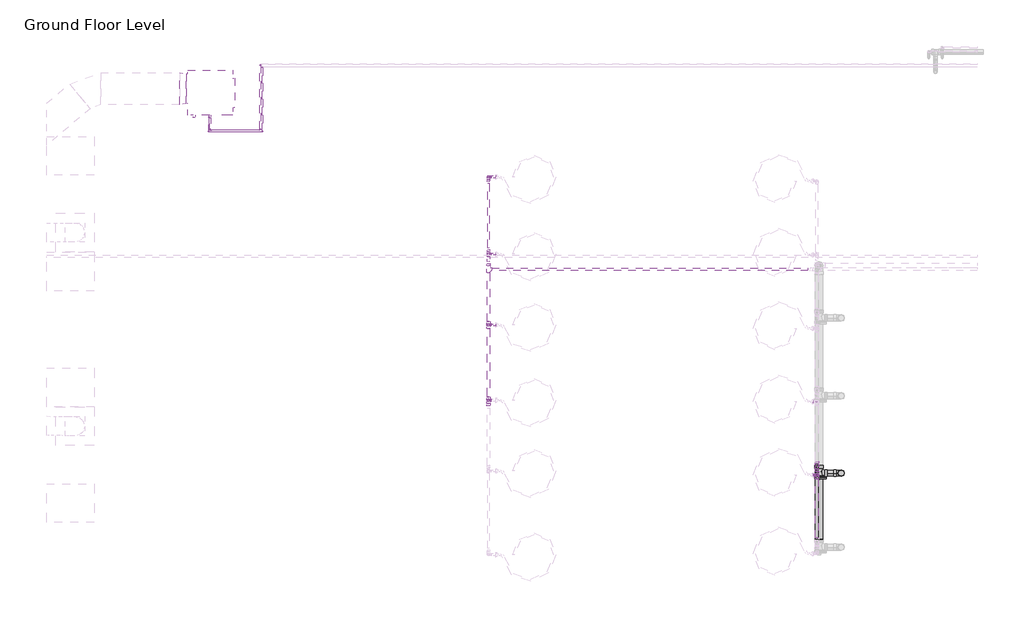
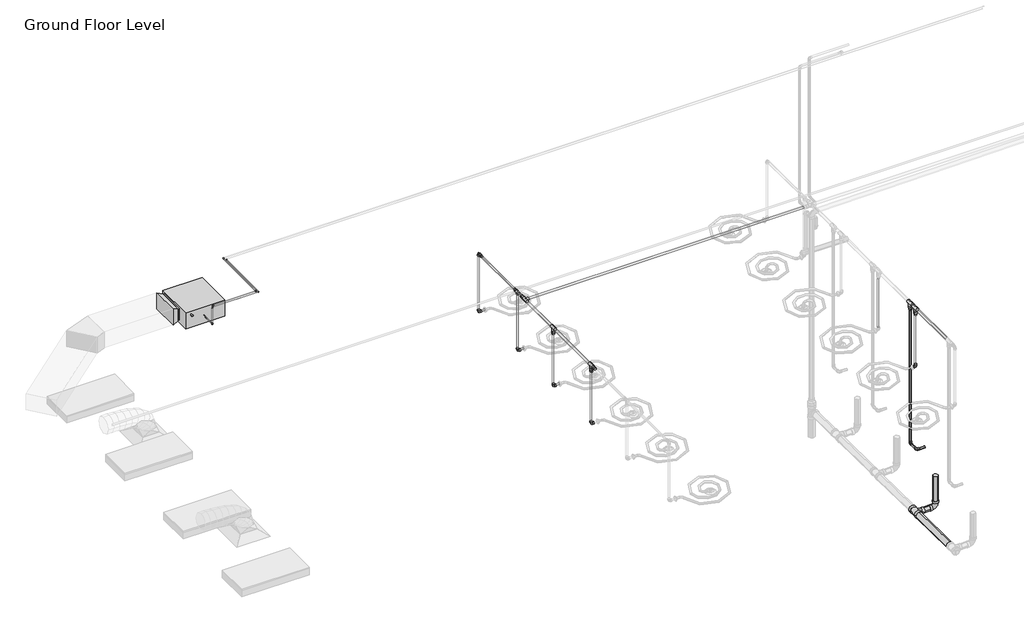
# One storey, part 4 of 74: 32 pipe fittings, 32 pipe segments, 1 duct fitting, 1 proxy.
"""IFC4 building model written with IfcOpenShell, lengths in millimetres."""

from ifc_helpers import new_model, si_unit, point, frame, frame_2d, origin, place, context, project, spatial, circle_curve, trimmed, segment, composite_curve, outline, extrude, transform, mapped, element, save
from components import fcu_daikin_iu_bad131e0, m_rectangular_transition_angle_45_degree_2b595dfe, m_bend_pvc_sch_40_dwv_standard_a4b99d37, m_elbow_generic_standard_a088f956, m_elbow_generic_standard_2a704253, m_tee_reducing_sanitary_pvc_sch_40_dwv_standard_b49161a9, standard_517a5a8d, standard_72b35c3b, standard_08ff6011, standard_d0d0b892, standard_bbae78af, standard_e954f56a, standard_e5aa6446, standard_8b9c3306, standard_77f9104c, standard_a38854e5

model = new_model("IFC4")

# Units and contexts
model_context = context("Model", 3, world=origin())
ifc_project = project(units=[si_unit("LENGTHUNIT", "METRE", prefix="MILLI")], contexts=[model_context])

# Site, building, storey
site = spatial("IfcSite", under=ifc_project)
building = spatial("IfcBuilding", under=site)
storey = spatial("IfcBuildingStorey", under=building, Name="Ground Floor Level", Elevation=900.0)

# Proxy
placement = place(None, origin())
fcu_daikin_iu_shape = fcu_daikin_iu_bad131e0(model_context)
element("IfcBuildingElementProxy", 1, Name="FCU-DAIKIN IU : 4.5kW, 230V/50Hz/1Ph", ObjectType="FCU-DAIKIN IU : 4.5kW, 230V/50Hz/1Ph", at=placement, inside=storey, context=model_context, shape_type="MappedRepresentation", body=[
    mapped(fcu_daikin_iu_shape, transform((-15233.3472784, -33493.9628495, 3934.0891289), x_axis=(0.0, -1.0, 0.0), y_axis=(1.0, 0.0, 0.0), z_axis=(0.0, 0.0, 1.0))),
])

# Duct fitting
m_rectangular_transition_angle_45_degree_shape = m_rectangular_transition_angle_45_degree_2b595dfe(model_context)
element("IfcDuctFitting", 2, ObjectType="M_Rectangular Transition - Angle : 45 Degree", at=placement, inside=storey, context=model_context, shape_type="MappedRepresentation", body=[
    mapped(m_rectangular_transition_angle_45_degree_shape, transform((-15608.7472784, -33430.4628495, 4100.0016289), x_axis=(-1.0, 0.0, 0.0), y_axis=(0.0, -1.0, 0.0), z_axis=(0.0, 0.0, 1.0))),
])

# Pipe fittings
m_bend_pvc_sch_40_dwv_standard_shape = m_bend_pvc_sch_40_dwv_standard_a4b99d37(model_context)
element("IfcPipeFitting", 3, ObjectType="M_Bend - PVC - Sch 40 - DWV : Standard", at=placement, inside=storey, context=model_context, shape_type="MappedRepresentation", body=[
    mapped(m_bend_pvc_sch_40_dwv_standard_shape, transform((-5437.0260633, -39402.8025066, 415.2349225), x_axis=(0.0, 0.0, -1.0), y_axis=(-1.0, 0.0, 0.0), z_axis=(0.0, 1.0, 0.0))),
])
m_elbow_generic_standard_shape = m_elbow_generic_standard_a088f956(model_context)
element("IfcPipeFitting", 4, ObjectType="M_Elbow - Generic : Standard", at=placement, inside=storey, context=model_context, shape_type="MappedRepresentation", body=[
    mapped(m_elbow_generic_standard_shape, transform((-14457.1048173, -33050.466218, 4390.0), x_axis=(-1.0, 0.0, 0.0), y_axis=(0.0, -1.0, 0.0), z_axis=(0.0, 0.0, 1.0))),
])
element("IfcPipeFitting", 5, ObjectType="M_Elbow - Generic : Standard", at=placement, inside=storey, context=model_context, shape_type="MappedRepresentation", body=[
    mapped(m_elbow_generic_standard_shape, transform((-14457.1048173, -34070.466218, 4390.0), x_axis=(1.0, 0.0, 0.0), y_axis=(0.0, 1.0, 0.0), z_axis=(0.0, 0.0, 1.0))),
])
element("IfcPipeFitting", 6, ObjectType="M_Elbow - Generic : Standard", at=placement, inside=storey, context=model_context, shape_type="MappedRepresentation", body=[
    mapped(m_elbow_generic_standard_shape, transform((-15233.3472784, -34070.466218, 4390.0), x_axis=(-1.0, 0.0, 0.0), y_axis=(0.0, 0.0, -1.0), z_axis=(0.0, -1.0, 0.0))),
])
element("IfcPipeFitting", 7, ObjectType="M_Elbow - Generic : Standard", at=placement, inside=storey, context=model_context, shape_type="MappedRepresentation", body=[
    mapped(m_elbow_generic_standard_shape, transform((-15233.3472784, -34070.466218, 4034.0891289), x_axis=(0.0, 0.0, -1.0), y_axis=(0.0, 1.0, 0.0), z_axis=(1.0, 0.0, 0.0))),
])
m_elbow_generic_standard_2_shape = m_elbow_generic_standard_2a704253(model_context)
element("IfcPipeFitting", 8, ObjectType="M_Elbow - Generic : Standard", at=placement, inside=storey, context=model_context, shape_type="MappedRepresentation", body=[
    mapped(m_elbow_generic_standard_2_shape, transform((-14426.0095887, -33088.5402522, 4377.5), x_axis=(-1.0, 0.0, 0.0), y_axis=(0.0, -1.0, 0.0), z_axis=(0.0, 0.0, 1.0))),
])
element("IfcPipeFitting", 9, ObjectType="M_Elbow - Generic : Standard", at=placement, inside=storey, context=model_context, shape_type="MappedRepresentation", body=[
    mapped(m_elbow_generic_standard_2_shape, transform((-14426.0095887, -34098.5402522, 4377.5), x_axis=(1.0, 0.0, 0.0), y_axis=(0.0, 1.0, 0.0), z_axis=(0.0, 0.0, 1.0))),
])
element("IfcPipeFitting", 10, ObjectType="M_Elbow - Generic : Standard", at=placement, inside=storey, context=model_context, shape_type="MappedRepresentation", body=[
    mapped(m_elbow_generic_standard_2_shape, transform((-15258.3472784, -34098.5402522, 4377.5), x_axis=(-1.0, 0.0, 0.0), y_axis=(0.0, 0.0, -1.0), z_axis=(0.0, -1.0, 0.0))),
])
element("IfcPipeFitting", 11, ObjectType="M_Elbow - Generic : Standard", at=placement, inside=storey, context=model_context, shape_type="MappedRepresentation", body=[
    mapped(m_elbow_generic_standard_2_shape, transform((-15258.3472784, -34098.5402522, 4084.8891289), x_axis=(0.0, 0.0, -1.0), y_axis=(0.0, 1.0, 0.0), z_axis=(1.0, 0.0, 0.0))),
])
m_tee_reducing_sanitary_pvc_sch_40_dwv_standard_shape = m_tee_reducing_sanitary_pvc_sch_40_dwv_standard_b49161a9(model_context)
element("IfcPipeFitting", 12, ObjectType="M_Tee Reducing Sanitary - PVC - Sch 40 - DWV : Standard", at=placement, inside=storey, context=model_context, shape_type="MappedRepresentation", body=[
    mapped(m_tee_reducing_sanitary_pvc_sch_40_dwv_standard_shape, transform((-5783.0674798, -39402.8010068, 415.3849075), x_axis=(0.0, -0.9999500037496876, 0.009999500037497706), y_axis=(-1.0000000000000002, 0.0, 0.0), z_axis=(0.0, -0.009999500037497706, -0.9999500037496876))),
])
standard_shape = standard_517a5a8d(model_context)
element("IfcPipeFitting", 13, ObjectType="M_Elbow - CPVC - Sch 40 : Standard", at=placement, inside=storey, context=model_context, shape_type="MappedRepresentation", body=[
    mapped(standard_shape, transform((-5815.4900472, -39432.7929166, 3200.0), x_axis=(1.0, 0.0, 0.0), y_axis=(0.0, 0.0, 1.0), z_axis=(0.0, -1.0, 0.0))),
])
element("IfcPipeFitting", 14, ObjectType="M_Elbow - CPVC - Sch 40 : Standard", at=placement, inside=storey, context=model_context, shape_type="MappedRepresentation", body=[
    mapped(standard_shape, transform((-5815.4900472, -39276.2412728, 1655.0), x_axis=(0.0, 1.0, 0.0), y_axis=(0.0, 0.0, 1.0), z_axis=(1.0, 0.0, 0.0))),
])
element("IfcPipeFitting", 15, ObjectType="M_Elbow - CPVC - Sch 40 : Standard", at=placement, inside=storey, context=model_context, shape_type="MappedRepresentation", body=[
    mapped(standard_shape, transform((-10915.1539972, -38269.7846466, 3200.0), x_axis=(0.0, 0.0, -1.0), y_axis=(1.0, 0.0, 0.0), z_axis=(0.0, -1.0, 0.0))),
])
element("IfcPipeFitting", 16, ObjectType="M_Elbow - CPVC - Sch 40 : Standard", at=placement, inside=storey, context=model_context, shape_type="MappedRepresentation", body=[
    mapped(standard_shape, transform((-10915.1539972, -37099.6019973, 3200.0), x_axis=(-1.0, 0.0, 0.0), y_axis=(0.0, 0.0, 1.0), z_axis=(0.0, 1.0, 0.0))),
])
element("IfcPipeFitting", 17, ObjectType="M_Elbow - CPVC - Sch 40 : Standard", at=placement, inside=storey, context=model_context, shape_type="MappedRepresentation", body=[
    mapped(standard_shape, transform((-10915.1539972, -35999.6019973, 3200.0), x_axis=(-1.0, 0.0, 0.0), y_axis=(0.0, 0.0, 1.0), z_axis=(0.0, 1.0, 0.0))),
])
element("IfcPipeFitting", 18, ObjectType="M_Elbow - CPVC - Sch 40 : Standard", at=placement, inside=storey, context=model_context, shape_type="MappedRepresentation", body=[
    mapped(standard_shape, transform((-10915.1539972, -34799.6019973, 3200.0), x_axis=(-1.0, 0.0, 0.0), y_axis=(0.0, 0.0, 1.0), z_axis=(0.0, 1.0, 0.0))),
])
element("IfcPipeFitting", 19, ObjectType="M_Elbow - CPVC - Sch 40 : Standard", at=placement, inside=storey, context=model_context, shape_type="MappedRepresentation", body=[
    mapped(standard_shape, transform((-10915.1539972, -34799.6019973, 4300.0), x_axis=(0.0, 1.0, 0.0), y_axis=(0.0, 0.0, -1.0), z_axis=(-1.0, 0.0, 0.0))),
])
element("IfcPipeFitting", 20, ObjectType="M_Elbow - CPVC - Sch 40 : Standard", at=placement, inside=storey, context=model_context, shape_type="MappedRepresentation", body=[
    mapped(standard_shape, transform((-5815.4900472, -39476.2412728, 1655.0), x_axis=(0.0, -1.0, 0.0), y_axis=(1.0, 0.0, 0.0), z_axis=(0.0, 0.0, 1.0))),
])
standard_2_shape = standard_72b35c3b(model_context)
element("IfcPipeFitting", 21, ObjectType="M_Tee - CPVC - Sch 40 : Standard", at=placement, inside=storey, context=model_context, shape_type="MappedRepresentation", body=[
    mapped(standard_2_shape, transform((-10915.1539972, -35999.6019973, 4300.0), x_axis=(0.0, -1.0, 0.0), y_axis=(0.0, 0.0, 1.0), z_axis=(-1.0, 0.0, 0.0))),
])
standard_3_shape = standard_08ff6011(model_context)
element("IfcPipeFitting", 22, ObjectType="M_Tee - CPVC - Sch 40 : Standard", at=placement, inside=storey, context=model_context, shape_type="MappedRepresentation", body=[
    mapped(standard_3_shape, transform((-10915.1539972, -36234.6855451, 4300.0), x_axis=(0.0, -1.0, 0.0), y_axis=(-1.0, 0.0, 0.0), z_axis=(0.0, 0.0, -1.0))),
])
element("IfcPipeFitting", 23, ObjectType="M_Tee - CPVC - Sch 40 : Standard", at=placement, inside=storey, context=model_context, shape_type="MappedRepresentation", body=[
    mapped(standard_3_shape, transform((-10915.1539972, -38269.7846466, 4300.0), x_axis=(0.0, -1.0, 0.0), y_axis=(0.0, 0.0, 1.0), z_axis=(-1.0, 0.0, 0.0))),
])
element("IfcPipeFitting", 24, ObjectType="M_Tee - CPVC - Sch 40 : Standard", at=placement, inside=storey, context=model_context, shape_type="MappedRepresentation", body=[
    mapped(standard_3_shape, transform((-10915.1539972, -37099.6019973, 4300.0), x_axis=(0.0, -1.0, 0.0), y_axis=(0.0, 0.0, 1.0), z_axis=(-1.0, 0.0, 0.0))),
])
standard_4_shape = standard_d0d0b892(model_context)
element("IfcPipeFitting", 25, ObjectType="M_Coupling Reducing - CPVC - Sch 40 : Standard", at=placement, inside=storey, context=model_context, shape_type="MappedRepresentation", body=[
    mapped(standard_4_shape, transform((-10915.1539972, -38269.7846466, 4246.025), x_axis=(0.0, 0.0, -1.0), y_axis=(0.0, 1.0, 0.0), z_axis=(1.0, 0.0, 0.0))),
])
element("IfcPipeFitting", 26, ObjectType="M_Coupling Reducing - CPVC - Sch 40 : Standard", at=placement, inside=storey, context=model_context, shape_type="MappedRepresentation", body=[
    mapped(standard_4_shape, transform((-10915.1539972, -37099.6019973, 4246.025), x_axis=(0.0, 0.0, -1.0), y_axis=(-1.0, 0.0, 0.0), z_axis=(0.0, 1.0, 0.0))),
])
element("IfcPipeFitting", 27, ObjectType="M_Coupling Reducing - CPVC - Sch 40 : Standard", at=placement, inside=storey, context=model_context, shape_type="MappedRepresentation", body=[
    mapped(standard_4_shape, transform((-10915.1539972, -36180.7105451, 4300.0), x_axis=(0.0, 1.0, 0.0), y_axis=(-1.0, 0.0, 0.0), z_axis=(0.0, 0.0, 1.0))),
])
standard_5_shape = standard_bbae78af(model_context)
element("IfcPipeFitting", 28, ObjectType="M_Tee - CPVC - Sch 40 : Standard", at=placement, inside=storey, context=model_context, shape_type="MappedRepresentation", body=[
    mapped(standard_5_shape, transform((-5815.4900472, -39432.7929166, 4300.0), x_axis=(0.0, 1.0, 0.0), y_axis=(0.0, 0.0, 1.0), z_axis=(1.0, 0.0, 0.0))),
])
element("IfcPipeFitting", 29, ObjectType="M_Tee - CPVC - Sch 40 : Standard", at=placement, inside=storey, context=model_context, shape_type="MappedRepresentation", body=[
    mapped(standard_5_shape, transform((-5815.4900472, -39276.2412728, 4300.0), x_axis=(0.0, 1.0, 0.0), y_axis=(0.0, 0.0, 1.0), z_axis=(1.0, 0.0, 0.0))),
])
standard_6_shape = standard_e954f56a(model_context)
element("IfcPipeFitting", 30, ObjectType="M_Coupling Reducing - CPVC - Sch 40 : Standard", at=placement, inside=storey, context=model_context, shape_type="MappedRepresentation", body=[
    mapped(standard_6_shape, transform((-10915.1539972, -35959.9017973, 4300.0), x_axis=(0.0, 1.0, 0.0), y_axis=(-1.0, 0.0, 0.0), z_axis=(0.0, 0.0, 1.0))),
])
standard_7_shape = standard_e5aa6446(model_context)
element("IfcPipeFitting", 31, ObjectType="M_Coupling Reducing - CPVC - Sch 40 : Standard", at=placement, inside=storey, context=model_context, shape_type="MappedRepresentation", body=[
    mapped(standard_7_shape, transform((-10915.1539972, -34842.8645473, 4300.0), x_axis=(0.0, -1.0, 0.0), y_axis=(1.0, 0.0, 0.0), z_axis=(0.0, 0.0, 1.0))),
])
standard_8_shape = standard_8b9c3306(model_context)
element("IfcPipeFitting", 32, ObjectType="M_Coupling Reducing - CPVC - Sch 40 : Standard", at=placement, inside=storey, context=model_context, shape_type="MappedRepresentation", body=[
    mapped(standard_8_shape, transform((-5815.4900472, -39432.7929166, 4241.2498), x_axis=(0.0, 0.0, -1.0), y_axis=(-1.0, 0.0, 0.0), z_axis=(0.0, 1.0, 0.0))),
])
standard_9_shape = standard_77f9104c(model_context)
element("IfcPipeFitting", 33, ObjectType="M_Coupling Reducing - CPVC - Sch 40 : Standard", at=placement, inside=storey, context=model_context, shape_type="MappedRepresentation", body=[
    mapped(standard_9_shape, transform((-5815.4900472, -39276.2412728, 4241.2498), x_axis=(0.0, 0.0, -1.0), y_axis=(0.0, -1.0, 0.0), z_axis=(-1.0, 0.0, 0.0))),
])
standard_10_shape = standard_a38854e5(model_context)
element("IfcPipeFitting", 34, ObjectType="M_Coupling Reducing - CPVC - Sch 40 : Standard", at=placement, inside=storey, context=model_context, shape_type="MappedRepresentation", body=[
    mapped(standard_10_shape, transform((-10915.1539972, -38323.7596466, 4300.0), x_axis=(0.0, -1.0, 0.0), y_axis=(1.0, 0.0, 0.0), z_axis=(0.0, 0.0, 1.0))),
])

# Pipe segments
element("IfcPipeSegment", 35, ObjectType="CPVC", at=placement, inside=storey, context=model_context, shape_type="SweptSolid", body=[
    extrude(outline(composite_curve([segment(trimmed(circle_curve(frame_2d((-36234.6855451, 4300.0)), 21.082), [point((-36213.6035451, 4300.0))], [point((-36234.6855451, 4278.918))], False, "CARTESIAN"), True, "CONTINUOUS"), segment(trimmed(circle_curve(frame_2d((-36234.6855451, 4300.0)), 21.082), [point((-36234.6855451, 4278.918))], [point((-36255.7675451, 4300.0))], False, "CARTESIAN"), True, "CONTINUOUS"), segment(trimmed(circle_curve(frame_2d((-36234.6855451, 4300.0)), 21.082), [point((-36255.7675451, 4300.0))], [point((-36234.6855451, 4321.082))], False, "CARTESIAN"), True, "CONTINUOUS"), segment(trimmed(circle_curve(frame_2d((-36234.6855451, 4300.0)), 21.082), [point((-36234.6855451, 4321.082))], [point((-36213.6035451, 4300.0))], False, "CARTESIAN"), True, "CONTINUOUS")], self_intersect=False)), frame((-10861.1789972, 0.0, 0.0), z_axis=(1.0, 0.0, 0.0), x_axis=(0.0, 1.0, 0.0)), (0.0, 0.0, 1.0), 4906.025),
])
element("IfcPipeSegment", 36, ObjectType="CPVC", at=placement, inside=storey, context=model_context, shape_type="SweptSolid", body=[
    extrude(outline(composite_curve([segment(trimmed(circle_curve(frame_2d((-38292.7833266, 3200.0)), 16.7005), [point((-38309.4838266, 3200.0))], [point((-38292.7833266, 3216.7005))], False, "CARTESIAN"), True, "CONTINUOUS"), segment(trimmed(circle_curve(frame_2d((-38292.7833266, 3200.0)), 16.7005), [point((-38292.7833266, 3216.7005))], [point((-38276.0828266, 3200.0))], False, "CARTESIAN"), True, "CONTINUOUS"), segment(trimmed(circle_curve(frame_2d((-38292.7833266, 3200.0)), 16.7005), [point((-38276.0828266, 3200.0))], [point((-38292.7833266, 3183.2995))], False, "CARTESIAN"), True, "CONTINUOUS"), segment(trimmed(circle_curve(frame_2d((-38292.7833266, 3200.0)), 16.7005), [point((-38292.7833266, 3183.2995))], [point((-38309.4838266, 3200.0))], False, "CARTESIAN"), True, "CONTINUOUS")], self_intersect=False)), frame((-5868.9493142, 0.0, 0.0), z_axis=(1.0, 0.0, 0.0), x_axis=(0.0, 1.0, 0.0)), (0.0, 0.0, 1.0), 10.1967171),
])
element("IfcPipeSegment", 37, ObjectType="CPVC", at=placement, inside=storey, context=model_context, shape_type="SweptSolid", body=[
    extrude(outline(composite_curve([segment(trimmed(circle_curve(frame_2d((-5815.4900472, -38292.7833266)), 16.7005), [point((-5832.1905472, -38292.7833266))], [point((-5815.4900472, -38276.0828266))], False, "CARTESIAN"), True, "CONTINUOUS"), segment(trimmed(circle_curve(frame_2d((-5815.4900472, -38292.7833266)), 16.7005), [point((-5815.4900472, -38276.0828266))], [point((-5798.7895472, -38292.7833266))], False, "CARTESIAN"), True, "CONTINUOUS"), segment(trimmed(circle_curve(frame_2d((-5815.4900472, -38292.7833266)), 16.7005), [point((-5798.7895472, -38292.7833266))], [point((-5815.4900472, -38309.4838266))], False, "CARTESIAN"), True, "CONTINUOUS"), segment(trimmed(circle_curve(frame_2d((-5815.4900472, -38292.7833266)), 16.7005), [point((-5815.4900472, -38309.4838266))], [point((-5832.1905472, -38292.7833266))], False, "CARTESIAN"), True, "CONTINUOUS")], self_intersect=False)), frame((0.0, 0.0, 3243.26255), z_axis=(0.0, 0.0, 1.0), x_axis=(1.0, 0.0, 0.0)), (0.0, 0.0, 1.0), 925.788375),
])
element("IfcPipeSegment", 38, ObjectType="CPVC", at=placement, inside=storey, context=model_context, shape_type="SweptSolid", body=[
    extrude(outline(composite_curve([segment(trimmed(circle_curve(frame_2d((-39432.7929166, 3200.0)), 16.7005), [point((-39449.4934166, 3200.0))], [point((-39432.7929166, 3216.7005))], False, "CARTESIAN"), True, "CONTINUOUS"), segment(trimmed(circle_curve(frame_2d((-39432.7929166, 3200.0)), 16.7005), [point((-39432.7929166, 3216.7005))], [point((-39416.0924166, 3200.0))], False, "CARTESIAN"), True, "CONTINUOUS"), segment(trimmed(circle_curve(frame_2d((-39432.7929166, 3200.0)), 16.7005), [point((-39416.0924166, 3200.0))], [point((-39432.7929166, 3183.2995))], False, "CARTESIAN"), True, "CONTINUOUS"), segment(trimmed(circle_curve(frame_2d((-39432.7929166, 3200.0)), 16.7005), [point((-39432.7929166, 3183.2995))], [point((-39449.4934166, 3200.0))], False, "CARTESIAN"), True, "CONTINUOUS")], self_intersect=False)), frame((-5868.9493142, 0.0, 0.0), z_axis=(1.0, 0.0, 0.0), x_axis=(0.0, 1.0, 0.0)), (0.0, 0.0, 1.0), 10.1967171),
])
element("IfcPipeSegment", 39, ObjectType="CPVC", at=placement, inside=storey, context=model_context, shape_type="SweptSolid", body=[
    extrude(outline(composite_curve([segment(trimmed(circle_curve(frame_2d((-5815.4900472, -39432.7929166)), 16.7005), [point((-5832.1905472, -39432.7929166))], [point((-5815.4900472, -39416.0924166))], False, "CARTESIAN"), True, "CONTINUOUS"), segment(trimmed(circle_curve(frame_2d((-5815.4900472, -39432.7929166)), 16.7005), [point((-5815.4900472, -39416.0924166))], [point((-5798.7895472, -39432.7929166))], False, "CARTESIAN"), True, "CONTINUOUS"), segment(trimmed(circle_curve(frame_2d((-5815.4900472, -39432.7929166)), 16.7005), [point((-5798.7895472, -39432.7929166))], [point((-5815.4900472, -39449.4934166))], False, "CARTESIAN"), True, "CONTINUOUS"), segment(trimmed(circle_curve(frame_2d((-5815.4900472, -39432.7929166)), 16.7005), [point((-5815.4900472, -39449.4934166))], [point((-5832.1905472, -39432.7929166))], False, "CARTESIAN"), True, "CONTINUOUS")], self_intersect=False)), frame((0.0, 0.0, 3243.26255), z_axis=(0.0, 0.0, 1.0), x_axis=(1.0, 0.0, 0.0)), (0.0, 0.0, 1.0), 925.788375),
])
element("IfcPipeSegment", 40, ObjectType="CPVC", at=placement, inside=storey, context=model_context, shape_type="SweptSolid", body=[
    extrude(outline(composite_curve([segment(trimmed(circle_curve(frame_2d((4300.0, -5815.4900472)), 24.13), [point((4300.0, -5839.6200472))], [point((4275.87, -5815.4900472))], False, "CARTESIAN"), True, "CONTINUOUS"), segment(trimmed(circle_curve(frame_2d((4300.0, -5815.4900472)), 24.13), [point((4275.87, -5815.4900472))], [point((4300.0, -5791.3600472))], False, "CARTESIAN"), True, "CONTINUOUS"), segment(trimmed(circle_curve(frame_2d((4300.0, -5815.4900472)), 24.13), [point((4300.0, -5791.3600472))], [point((4324.13, -5815.4900472))], False, "CARTESIAN"), True, "CONTINUOUS"), segment(trimmed(circle_curve(frame_2d((4300.0, -5815.4900472)), 24.13), [point((4324.13, -5815.4900472))], [point((4300.0, -5839.6200472))], False, "CARTESIAN"), True, "CONTINUOUS")], self_intersect=False)), frame((0.0, -39374.0427166, 0.0), z_axis=(0.0, 1.0, 0.0), x_axis=(0.0, 0.0, 1.0)), (0.0, 0.0, 1.0), 39.0512438),
])
element("IfcPipeSegment", 41, ObjectType="CPVC", at=placement, inside=storey, context=model_context, shape_type="SweptSolid", body=[
    extrude(outline(composite_curve([segment(trimmed(circle_curve(frame_2d((-39476.2412728, 1655.0)), 16.7005), [point((-39492.9417728, 1655.0))], [point((-39476.2412728, 1671.7005))], False, "CARTESIAN"), True, "CONTINUOUS"), segment(trimmed(circle_curve(frame_2d((-39476.2412728, 1655.0)), 16.7005), [point((-39476.2412728, 1671.7005))], [point((-39459.5407728, 1655.0))], False, "CARTESIAN"), True, "CONTINUOUS"), segment(trimmed(circle_curve(frame_2d((-39476.2412728, 1655.0)), 16.7005), [point((-39459.5407728, 1655.0))], [point((-39476.2412728, 1638.2995))], False, "CARTESIAN"), True, "CONTINUOUS"), segment(trimmed(circle_curve(frame_2d((-39476.2412728, 1655.0)), 16.7005), [point((-39476.2412728, 1638.2995))], [point((-39492.9417728, 1655.0))], False, "CARTESIAN"), True, "CONTINUOUS")], self_intersect=False)), frame((-5772.2274972, 0.0, 0.0), z_axis=(1.0, 0.0, 0.0), x_axis=(0.0, 1.0, 0.0)), (0.0, 0.0, 1.0), 101.6587367),
])
element("IfcPipeSegment", 42, ObjectType="CPVC", at=placement, inside=storey, context=model_context, shape_type="SweptSolid", body=[
    extrude(outline(composite_curve([segment(trimmed(circle_curve(frame_2d((1655.0, -5815.4900472)), 16.7005), [point((1655.0, -5798.7895472))], [point((1671.7005, -5815.4900472))], False, "CARTESIAN"), True, "CONTINUOUS"), segment(trimmed(circle_curve(frame_2d((1655.0, -5815.4900472)), 16.7005), [point((1671.7005, -5815.4900472))], [point((1655.0, -5832.1905472))], False, "CARTESIAN"), True, "CONTINUOUS"), segment(trimmed(circle_curve(frame_2d((1655.0, -5815.4900472)), 16.7005), [point((1655.0, -5832.1905472))], [point((1638.2995, -5815.4900472))], False, "CARTESIAN"), True, "CONTINUOUS"), segment(trimmed(circle_curve(frame_2d((1655.0, -5815.4900472)), 16.7005), [point((1638.2995, -5815.4900472))], [point((1655.0, -5798.7895472))], False, "CARTESIAN"), True, "CONTINUOUS")], self_intersect=False)), frame((0.0, -39432.9787228, 0.0), z_axis=(0.0, 1.0, 0.0), x_axis=(0.0, 0.0, 1.0)), (0.0, 0.0, 1.0), 113.4749),
])
element("IfcPipeSegment", 43, ObjectType="CPVC", at=placement, inside=storey, context=model_context, shape_type="SweptSolid", body=[
    extrude(outline(composite_curve([segment(trimmed(circle_curve(frame_2d((-5815.4900472, -39276.2412728)), 16.7005), [point((-5798.7895472, -39276.2412728))], [point((-5815.4900472, -39292.9417728))], False, "CARTESIAN"), True, "CONTINUOUS"), segment(trimmed(circle_curve(frame_2d((-5815.4900472, -39276.2412728)), 16.7005), [point((-5815.4900472, -39292.9417728))], [point((-5832.1905472, -39276.2412728))], False, "CARTESIAN"), True, "CONTINUOUS"), segment(trimmed(circle_curve(frame_2d((-5815.4900472, -39276.2412728)), 16.7005), [point((-5832.1905472, -39276.2412728))], [point((-5815.4900472, -39259.5407728))], False, "CARTESIAN"), True, "CONTINUOUS"), segment(trimmed(circle_curve(frame_2d((-5815.4900472, -39276.2412728)), 16.7005), [point((-5815.4900472, -39259.5407728))], [point((-5798.7895472, -39276.2412728))], False, "CARTESIAN"), True, "CONTINUOUS")], self_intersect=False)), frame((0.0, 0.0, 1698.26255), z_axis=(0.0, 0.0, 1.0), x_axis=(1.0, 0.0, 0.0)), (0.0, 0.0, 1.0), 2470.788375),
])
element("IfcPipeSegment", 44, ObjectType="CPVC", at=placement, inside=storey, context=model_context, shape_type="SweptSolid", body=[
    extrude(outline(composite_curve([segment(trimmed(circle_curve(frame_2d((4300.0, -5815.4900472)), 24.13), [point((4300.0, -5839.6200472))], [point((4275.87, -5815.4900472))], False, "CARTESIAN"), True, "CONTINUOUS"), segment(trimmed(circle_curve(frame_2d((4300.0, -5815.4900472)), 24.13), [point((4275.87, -5815.4900472))], [point((4300.0, -5791.3600472))], False, "CARTESIAN"), True, "CONTINUOUS"), segment(trimmed(circle_curve(frame_2d((4300.0, -5815.4900472)), 24.13), [point((4300.0, -5791.3600472))], [point((4324.13, -5815.4900472))], False, "CARTESIAN"), True, "CONTINUOUS"), segment(trimmed(circle_curve(frame_2d((4300.0, -5815.4900472)), 24.13), [point((4324.13, -5815.4900472))], [point((4300.0, -5839.6200472))], False, "CARTESIAN"), True, "CONTINUOUS")], self_intersect=False)), frame((0.0, -40409.4732128, 0.0), z_axis=(0.0, 1.0, 0.0), x_axis=(0.0, 0.0, 1.0)), (0.0, 0.0, 1.0), 917.9300962),
])
element("IfcPipeSegment", 45, ObjectType="CPVC", at=placement, inside=storey, context=model_context, shape_type="SweptSolid", body=[
    extrude(outline(composite_curve([segment(trimmed(circle_curve(frame_2d((-10915.1539972, -38269.7846466)), 16.7005), [point((-10898.4534972, -38269.7846466))], [point((-10915.1539972, -38286.4851466))], False, "CARTESIAN"), True, "CONTINUOUS"), segment(trimmed(circle_curve(frame_2d((-10915.1539972, -38269.7846466)), 16.7005), [point((-10915.1539972, -38286.4851466))], [point((-10931.8544972, -38269.7846466))], False, "CARTESIAN"), True, "CONTINUOUS"), segment(trimmed(circle_curve(frame_2d((-10915.1539972, -38269.7846466)), 16.7005), [point((-10931.8544972, -38269.7846466))], [point((-10915.1539972, -38253.0841466))], False, "CARTESIAN"), True, "CONTINUOUS"), segment(trimmed(circle_curve(frame_2d((-10915.1539972, -38269.7846466)), 16.7005), [point((-10915.1539972, -38253.0841466))], [point((-10898.4534972, -38269.7846466))], False, "CARTESIAN"), True, "CONTINUOUS")], self_intersect=False)), frame((0.0, 0.0, 3243.26255), z_axis=(0.0, 0.0, 1.0), x_axis=(1.0, 0.0, 0.0)), (0.0, 0.0, 1.0), 936.643575),
])
element("IfcPipeSegment", 46, ObjectType="CPVC", at=placement, inside=storey, context=model_context, shape_type="SweptSolid", body=[
    extrude(outline(composite_curve([segment(trimmed(circle_curve(frame_2d((4300.0, -10915.1539972)), 21.082), [point((4300.0, -10936.2359972))], [point((4278.918, -10915.1539972))], False, "CARTESIAN"), True, "CONTINUOUS"), segment(trimmed(circle_curve(frame_2d((4300.0, -10915.1539972)), 21.082), [point((4278.918, -10915.1539972))], [point((4300.0, -10894.0719972))], False, "CARTESIAN"), True, "CONTINUOUS"), segment(trimmed(circle_curve(frame_2d((4300.0, -10915.1539972)), 21.082), [point((4300.0, -10894.0719972))], [point((4321.082, -10915.1539972))], False, "CARTESIAN"), True, "CONTINUOUS"), segment(trimmed(circle_curve(frame_2d((4300.0, -10915.1539972)), 21.082), [point((4321.082, -10915.1539972))], [point((4300.0, -10936.2359972))], False, "CARTESIAN"), True, "CONTINUOUS")], self_intersect=False)), frame((0.0, -38215.8096466, 0.0), z_axis=(0.0, 1.0, 0.0), x_axis=(0.0, 0.0, 1.0)), (0.0, 0.0, 1.0), 1062.2326493),
])
element("IfcPipeSegment", 47, ObjectType="CPVC", at=placement, inside=storey, context=model_context, shape_type="SweptSolid", body=[
    extrude(outline(composite_curve([segment(trimmed(circle_curve(frame_2d((-37099.6019973, 3200.0)), 16.7005), [point((-37082.9014973, 3200.0))], [point((-37099.6019973, 3183.2995))], False, "CARTESIAN"), True, "CONTINUOUS"), segment(trimmed(circle_curve(frame_2d((-37099.6019973, 3200.0)), 16.7005), [point((-37099.6019973, 3183.2995))], [point((-37116.3024973, 3200.0))], False, "CARTESIAN"), True, "CONTINUOUS"), segment(trimmed(circle_curve(frame_2d((-37099.6019973, 3200.0)), 16.7005), [point((-37116.3024973, 3200.0))], [point((-37099.6019973, 3216.7005))], False, "CARTESIAN"), True, "CONTINUOUS"), segment(trimmed(circle_curve(frame_2d((-37099.6019973, 3200.0)), 16.7005), [point((-37099.6019973, 3216.7005))], [point((-37082.9014973, 3200.0))], False, "CARTESIAN"), True, "CONTINUOUS")], self_intersect=False)), frame((-10871.8914472, 0.0, 0.0), z_axis=(1.0, 0.0, 0.0), x_axis=(0.0, 1.0, 0.0)), (0.0, 0.0, 1.0), 66.3712404),
])
element("IfcPipeSegment", 48, ObjectType="CPVC", at=placement, inside=storey, context=model_context, shape_type="SweptSolid", body=[
    extrude(outline(composite_curve([segment(trimmed(circle_curve(frame_2d((-10915.1539972, -37099.6019973)), 16.7005), [point((-10931.8544972, -37099.6019973))], [point((-10915.1539972, -37082.9014973))], False, "CARTESIAN"), True, "CONTINUOUS"), segment(trimmed(circle_curve(frame_2d((-10915.1539972, -37099.6019973)), 16.7005), [point((-10915.1539972, -37082.9014973))], [point((-10898.4534972, -37099.6019973))], False, "CARTESIAN"), True, "CONTINUOUS"), segment(trimmed(circle_curve(frame_2d((-10915.1539972, -37099.6019973)), 16.7005), [point((-10898.4534972, -37099.6019973))], [point((-10915.1539972, -37116.3024973))], False, "CARTESIAN"), True, "CONTINUOUS"), segment(trimmed(circle_curve(frame_2d((-10915.1539972, -37099.6019973)), 16.7005), [point((-10915.1539972, -37116.3024973))], [point((-10931.8544972, -37099.6019973))], False, "CARTESIAN"), True, "CONTINUOUS")], self_intersect=False)), frame((0.0, 0.0, 3243.26255), z_axis=(0.0, 0.0, 1.0), x_axis=(1.0, 0.0, 0.0)), (0.0, 0.0, 1.0), 936.643575),
])
element("IfcPipeSegment", 49, ObjectType="CPVC", at=placement, inside=storey, context=model_context, shape_type="SweptSolid", body=[
    extrude(outline(composite_curve([segment(trimmed(circle_curve(frame_2d((4300.0, -10915.1539972)), 21.082), [point((4300.0, -10936.2359972))], [point((4278.918, -10915.1539972))], False, "CARTESIAN"), True, "CONTINUOUS"), segment(trimmed(circle_curve(frame_2d((4300.0, -10915.1539972)), 21.082), [point((4278.918, -10915.1539972))], [point((4300.0, -10894.0719972))], False, "CARTESIAN"), True, "CONTINUOUS"), segment(trimmed(circle_curve(frame_2d((4300.0, -10915.1539972)), 21.082), [point((4300.0, -10894.0719972))], [point((4321.082, -10915.1539972))], False, "CARTESIAN"), True, "CONTINUOUS"), segment(trimmed(circle_curve(frame_2d((4300.0, -10915.1539972)), 21.082), [point((4321.082, -10915.1539972))], [point((4300.0, -10936.2359972))], False, "CARTESIAN"), True, "CONTINUOUS")], self_intersect=False)), frame((0.0, -37045.6269973, 0.0), z_axis=(0.0, 1.0, 0.0), x_axis=(0.0, 0.0, 1.0)), (0.0, 0.0, 1.0), 756.9664522),
])
element("IfcPipeSegment", 50, ObjectType="CPVC", at=placement, inside=storey, context=model_context, shape_type="SweptSolid", body=[
    extrude(outline(composite_curve([segment(trimmed(circle_curve(frame_2d((-35999.6019973, 3200.0)), 16.7005), [point((-35982.9014973, 3200.0))], [point((-35999.6019973, 3183.2995))], False, "CARTESIAN"), True, "CONTINUOUS"), segment(trimmed(circle_curve(frame_2d((-35999.6019973, 3200.0)), 16.7005), [point((-35999.6019973, 3183.2995))], [point((-36016.3024973, 3200.0))], False, "CARTESIAN"), True, "CONTINUOUS"), segment(trimmed(circle_curve(frame_2d((-35999.6019973, 3200.0)), 16.7005), [point((-36016.3024973, 3200.0))], [point((-35999.6019973, 3216.7005))], False, "CARTESIAN"), True, "CONTINUOUS"), segment(trimmed(circle_curve(frame_2d((-35999.6019973, 3200.0)), 16.7005), [point((-35999.6019973, 3216.7005))], [point((-35982.9014973, 3200.0))], False, "CARTESIAN"), True, "CONTINUOUS")], self_intersect=False)), frame((-10871.8914472, 0.0, 0.0), z_axis=(1.0, 0.0, 0.0), x_axis=(0.0, 1.0, 0.0)), (0.0, 0.0, 1.0), 66.3712404),
])
element("IfcPipeSegment", 51, ObjectType="CPVC", at=placement, inside=storey, context=model_context, shape_type="SweptSolid", body=[
    extrude(outline(composite_curve([segment(trimmed(circle_curve(frame_2d((-10915.1539972, -35999.6019973)), 16.7005), [point((-10931.8544972, -35999.6019973))], [point((-10915.1539972, -35982.9014973))], False, "CARTESIAN"), True, "CONTINUOUS"), segment(trimmed(circle_curve(frame_2d((-10915.1539972, -35999.6019973)), 16.7005), [point((-10915.1539972, -35982.9014973))], [point((-10898.4534972, -35999.6019973))], False, "CARTESIAN"), True, "CONTINUOUS"), segment(trimmed(circle_curve(frame_2d((-10915.1539972, -35999.6019973)), 16.7005), [point((-10898.4534972, -35999.6019973))], [point((-10915.1539972, -36016.3024973))], False, "CARTESIAN"), True, "CONTINUOUS"), segment(trimmed(circle_curve(frame_2d((-10915.1539972, -35999.6019973)), 16.7005), [point((-10915.1539972, -36016.3024973))], [point((-10931.8544972, -35999.6019973))], False, "CARTESIAN"), True, "CONTINUOUS")], self_intersect=False)), frame((0.0, 0.0, 3243.26255), z_axis=(0.0, 0.0, 1.0), x_axis=(1.0, 0.0, 0.0)), (0.0, 0.0, 1.0), 1017.03725),
])
element("IfcPipeSegment", 52, ObjectType="CPVC", at=placement, inside=storey, context=model_context, shape_type="SweptSolid", body=[
    extrude(outline(composite_curve([segment(trimmed(circle_curve(frame_2d((4300.0, -10915.1539972)), 16.7005), [point((4300.0, -10898.4534972))], [point((4316.7005, -10915.1539972))], False, "CARTESIAN"), True, "CONTINUOUS"), segment(trimmed(circle_curve(frame_2d((4300.0, -10915.1539972)), 16.7005), [point((4316.7005, -10915.1539972))], [point((4300.0, -10931.8544972))], False, "CARTESIAN"), True, "CONTINUOUS"), segment(trimmed(circle_curve(frame_2d((4300.0, -10915.1539972)), 16.7005), [point((4300.0, -10931.8544972))], [point((4283.2995, -10915.1539972))], False, "CARTESIAN"), True, "CONTINUOUS"), segment(trimmed(circle_curve(frame_2d((4300.0, -10915.1539972)), 16.7005), [point((4283.2995, -10915.1539972))], [point((4300.0, -10898.4534972))], False, "CARTESIAN"), True, "CONTINUOUS")], self_intersect=False)), frame((0.0, -36114.5916701, 0.0), z_axis=(0.0, 1.0, 0.0), x_axis=(0.0, 0.0, 1.0)), (0.0, 0.0, 1.0), 75.2894728),
])
element("IfcPipeSegment", 53, ObjectType="CPVC", at=placement, inside=storey, context=model_context, shape_type="SweptSolid", body=[
    extrude(outline(composite_curve([segment(trimmed(circle_curve(frame_2d((-34799.6019973, 3200.0)), 16.7005), [point((-34782.9014973, 3200.0))], [point((-34799.6019973, 3183.2995))], False, "CARTESIAN"), True, "CONTINUOUS"), segment(trimmed(circle_curve(frame_2d((-34799.6019973, 3200.0)), 16.7005), [point((-34799.6019973, 3183.2995))], [point((-34816.3024973, 3200.0))], False, "CARTESIAN"), True, "CONTINUOUS"), segment(trimmed(circle_curve(frame_2d((-34799.6019973, 3200.0)), 16.7005), [point((-34816.3024973, 3200.0))], [point((-34799.6019973, 3216.7005))], False, "CARTESIAN"), True, "CONTINUOUS"), segment(trimmed(circle_curve(frame_2d((-34799.6019973, 3200.0)), 16.7005), [point((-34799.6019973, 3216.7005))], [point((-34782.9014973, 3200.0))], False, "CARTESIAN"), True, "CONTINUOUS")], self_intersect=False)), frame((-10871.8914472, 0.0, 0.0), z_axis=(1.0, 0.0, 0.0), x_axis=(0.0, 1.0, 0.0)), (0.0, 0.0, 1.0), 66.3712404),
])
element("IfcPipeSegment", 54, ObjectType="CPVC", at=placement, inside=storey, context=model_context, shape_type="SweptSolid", body=[
    extrude(outline(composite_curve([segment(trimmed(circle_curve(frame_2d((-10915.1539972, -34799.6019973)), 16.7005), [point((-10931.8544972, -34799.6019973))], [point((-10915.1539972, -34782.9014973))], False, "CARTESIAN"), True, "CONTINUOUS"), segment(trimmed(circle_curve(frame_2d((-10915.1539972, -34799.6019973)), 16.7005), [point((-10915.1539972, -34782.9014973))], [point((-10898.4534972, -34799.6019973))], False, "CARTESIAN"), True, "CONTINUOUS"), segment(trimmed(circle_curve(frame_2d((-10915.1539972, -34799.6019973)), 16.7005), [point((-10898.4534972, -34799.6019973))], [point((-10915.1539972, -34816.3024973))], False, "CARTESIAN"), True, "CONTINUOUS"), segment(trimmed(circle_curve(frame_2d((-10915.1539972, -34799.6019973)), 16.7005), [point((-10915.1539972, -34816.3024973))], [point((-10931.8544972, -34799.6019973))], False, "CARTESIAN"), True, "CONTINUOUS")], self_intersect=False)), frame((0.0, 0.0, 3243.26255), z_axis=(0.0, 0.0, 1.0), x_axis=(1.0, 0.0, 0.0)), (0.0, 0.0, 1.0), 1013.4749),
])
element("IfcPipeSegment", 55, ObjectType="CPVC", at=placement, inside=storey, context=model_context, shape_type="SweptSolid", body=[
    extrude(outline(composite_curve([segment(trimmed(circle_curve(frame_2d((4300.0, -10915.1539972)), 13.335), [point((4300.0, -10901.8189972))], [point((4313.335, -10915.1539972))], False, "CARTESIAN"), True, "CONTINUOUS"), segment(trimmed(circle_curve(frame_2d((4300.0, -10915.1539972)), 13.335), [point((4313.335, -10915.1539972))], [point((4300.0, -10928.4889972))], False, "CARTESIAN"), True, "CONTINUOUS"), segment(trimmed(circle_curve(frame_2d((4300.0, -10915.1539972)), 13.335), [point((4300.0, -10928.4889972))], [point((4286.665, -10915.1539972))], False, "CARTESIAN"), True, "CONTINUOUS"), segment(trimmed(circle_curve(frame_2d((4300.0, -10915.1539972)), 13.335), [point((4286.665, -10915.1539972))], [point((4300.0, -10901.8189972))], False, "CARTESIAN"), True, "CONTINUOUS")], self_intersect=False)), frame((0.0, -35902.7517973, 0.0), z_axis=(0.0, 1.0, 0.0), x_axis=(0.0, 0.0, 1.0)), (0.0, 0.0, 1.0), 1002.73725),
])
element("IfcPipeSegment", 56, ObjectType="Copper", at=placement, inside=storey, context=model_context, shape_type="SweptSolid", body=[
    extrude(outline(composite_curve([segment(trimmed(circle_curve(frame_2d((4390.0, -14457.1048173)), 6.5), [point((4390.0, -14463.6048173))], [point((4383.5, -14457.1048173))], False, "CARTESIAN"), True, "CONTINUOUS"), segment(trimmed(circle_curve(frame_2d((4390.0, -14457.1048173)), 6.5), [point((4383.5, -14457.1048173))], [point((4390.0, -14450.6048173))], False, "CARTESIAN"), True, "CONTINUOUS"), segment(trimmed(circle_curve(frame_2d((4390.0, -14457.1048173)), 6.5), [point((4390.0, -14450.6048173))], [point((4396.5, -14457.1048173))], False, "CARTESIAN"), True, "CONTINUOUS"), segment(trimmed(circle_curve(frame_2d((4390.0, -14457.1048173)), 6.5), [point((4396.5, -14457.1048173))], [point((4390.0, -14463.6048173))], False, "CARTESIAN"), True, "CONTINUOUS")], self_intersect=False)), frame((0.0, -34056.178718, 0.0), z_axis=(0.0, 1.0, 0.0), x_axis=(0.0, 0.0, 1.0)), (0.0, 0.0, 1.0), 991.425),
])
element("IfcPipeSegment", 57, ObjectType="Copper", at=placement, inside=storey, context=model_context, shape_type="SweptSolid", body=[
    extrude(outline(composite_curve([segment(trimmed(circle_curve(frame_2d((-34070.466218, 4390.0)), 6.5), [point((-34063.966218, 4390.0))], [point((-34070.466218, 4383.5))], False, "CARTESIAN"), True, "CONTINUOUS"), segment(trimmed(circle_curve(frame_2d((-34070.466218, 4390.0)), 6.5), [point((-34070.466218, 4383.5))], [point((-34076.966218, 4390.0))], False, "CARTESIAN"), True, "CONTINUOUS"), segment(trimmed(circle_curve(frame_2d((-34070.466218, 4390.0)), 6.5), [point((-34076.966218, 4390.0))], [point((-34070.466218, 4396.5))], False, "CARTESIAN"), True, "CONTINUOUS"), segment(trimmed(circle_curve(frame_2d((-34070.466218, 4390.0)), 6.5), [point((-34070.466218, 4396.5))], [point((-34063.966218, 4390.0))], False, "CARTESIAN"), True, "CONTINUOUS")], self_intersect=False)), frame((-15219.0597784, 0.0, 0.0), z_axis=(1.0, 0.0, 0.0), x_axis=(0.0, 1.0, 0.0)), (0.0, 0.0, 1.0), 747.6674611),
])
element("IfcPipeSegment", 58, ObjectType="Copper", at=placement, inside=storey, context=model_context, shape_type="SweptSolid", body=[
    extrude(outline(composite_curve([segment(trimmed(circle_curve(frame_2d((4377.5, -14426.0095887)), 3.35), [point((4377.5, -14429.3595887))], [point((4374.15, -14426.0095887))], False, "CARTESIAN"), True, "CONTINUOUS"), segment(trimmed(circle_curve(frame_2d((4377.5, -14426.0095887)), 3.35), [point((4374.15, -14426.0095887))], [point((4377.5, -14422.6595887))], False, "CARTESIAN"), True, "CONTINUOUS"), segment(trimmed(circle_curve(frame_2d((4377.5, -14426.0095887)), 3.35), [point((4377.5, -14422.6595887))], [point((4380.85, -14426.0095887))], False, "CARTESIAN"), True, "CONTINUOUS"), segment(trimmed(circle_curve(frame_2d((4377.5, -14426.0095887)), 3.35), [point((4380.85, -14426.0095887))], [point((4377.5, -14429.3595887))], False, "CARTESIAN"), True, "CONTINUOUS")], self_intersect=False)), frame((0.0, -34087.4027522, 0.0), z_axis=(0.0, 1.0, 0.0), x_axis=(0.0, 0.0, 1.0)), (0.0, 0.0, 1.0), 987.725),
])
element("IfcPipeSegment", 59, ObjectType="Copper", at=placement, inside=storey, context=model_context, shape_type="SweptSolid", body=[
    extrude(outline(composite_curve([segment(trimmed(circle_curve(frame_2d((-34098.5402522, 4377.5)), 3.35), [point((-34095.1902522, 4377.5))], [point((-34098.5402522, 4374.15))], False, "CARTESIAN"), True, "CONTINUOUS"), segment(trimmed(circle_curve(frame_2d((-34098.5402522, 4377.5)), 3.35), [point((-34098.5402522, 4374.15))], [point((-34101.8902522, 4377.5))], False, "CARTESIAN"), True, "CONTINUOUS"), segment(trimmed(circle_curve(frame_2d((-34098.5402522, 4377.5)), 3.35), [point((-34101.8902522, 4377.5))], [point((-34098.5402522, 4380.85))], False, "CARTESIAN"), True, "CONTINUOUS"), segment(trimmed(circle_curve(frame_2d((-34098.5402522, 4377.5)), 3.35), [point((-34098.5402522, 4380.85))], [point((-34095.1902522, 4377.5))], False, "CARTESIAN"), True, "CONTINUOUS")], self_intersect=False)), frame((-15247.2097784, 0.0, 0.0), z_axis=(1.0, 0.0, 0.0), x_axis=(0.0, 1.0, 0.0)), (0.0, 0.0, 1.0), 810.0626897),
])
element("IfcPipeSegment", 60, ObjectType="Copper", at=placement, inside=storey, context=model_context, shape_type="SweptSolid", body=[
    extrude(outline(composite_curve([segment(trimmed(circle_curve(frame_2d((4034.0891289, -15233.3472784)), 6.5), [point((4034.0891289, -15226.8472784))], [point((4040.5891289, -15233.3472784))], False, "CARTESIAN"), True, "CONTINUOUS"), segment(trimmed(circle_curve(frame_2d((4034.0891289, -15233.3472784)), 6.5), [point((4040.5891289, -15233.3472784))], [point((4034.0891289, -15239.8472784))], False, "CARTESIAN"), True, "CONTINUOUS"), segment(trimmed(circle_curve(frame_2d((4034.0891289, -15233.3472784)), 6.5), [point((4034.0891289, -15239.8472784))], [point((4027.5891289, -15233.3472784))], False, "CARTESIAN"), True, "CONTINUOUS"), segment(trimmed(circle_curve(frame_2d((4034.0891289, -15233.3472784)), 6.5), [point((4027.5891289, -15233.3472784))], [point((4034.0891289, -15226.8472784))], False, "CARTESIAN"), True, "CONTINUOUS")], self_intersect=False)), frame((0.0, -34056.178718, 0.0), z_axis=(0.0, 1.0, 0.0), x_axis=(0.0, 0.0, 1.0)), (0.0, 0.0, 1.0), 174.1158685),
])
element("IfcPipeSegment", 61, ObjectType="Copper", at=placement, inside=storey, context=model_context, shape_type="SweptSolid", body=[
    extrude(outline(composite_curve([segment(trimmed(circle_curve(frame_2d((4084.8891289, -15258.3472784)), 3.35), [point((4084.8891289, -15254.9972784))], [point((4088.2391289, -15258.3472784))], False, "CARTESIAN"), True, "CONTINUOUS"), segment(trimmed(circle_curve(frame_2d((4084.8891289, -15258.3472784)), 3.35), [point((4088.2391289, -15258.3472784))], [point((4084.8891289, -15261.6972784))], False, "CARTESIAN"), True, "CONTINUOUS"), segment(trimmed(circle_curve(frame_2d((4084.8891289, -15258.3472784)), 3.35), [point((4084.8891289, -15261.6972784))], [point((4081.5391289, -15258.3472784))], False, "CARTESIAN"), True, "CONTINUOUS"), segment(trimmed(circle_curve(frame_2d((4084.8891289, -15258.3472784)), 3.35), [point((4081.5391289, -15258.3472784))], [point((4084.8891289, -15254.9972784))], False, "CARTESIAN"), True, "CONTINUOUS")], self_intersect=False)), frame((0.0, -34087.4027522, 0.0), z_axis=(0.0, 1.0, 0.0), x_axis=(0.0, 0.0, 1.0)), (0.0, 0.0, 1.0), 205.3399028),
])
element("IfcPipeSegment", 62, ObjectType="Copper", at=placement, inside=storey, context=model_context, shape_type="SweptSolid", body=[
    extrude(outline(composite_curve([segment(trimmed(circle_curve(frame_2d((-15258.3472784, -34098.5402522)), 3.35), [point((-15254.9972784, -34098.5402522))], [point((-15258.3472784, -34101.8902522))], False, "CARTESIAN"), True, "CONTINUOUS"), segment(trimmed(circle_curve(frame_2d((-15258.3472784, -34098.5402522)), 3.35), [point((-15258.3472784, -34101.8902522))], [point((-15261.6972784, -34098.5402522))], False, "CARTESIAN"), True, "CONTINUOUS"), segment(trimmed(circle_curve(frame_2d((-15258.3472784, -34098.5402522)), 3.35), [point((-15261.6972784, -34098.5402522))], [point((-15258.3472784, -34095.1902522))], False, "CARTESIAN"), True, "CONTINUOUS"), segment(trimmed(circle_curve(frame_2d((-15258.3472784, -34098.5402522)), 3.35), [point((-15258.3472784, -34095.1902522))], [point((-15254.9972784, -34098.5402522))], False, "CARTESIAN"), True, "CONTINUOUS")], self_intersect=False)), frame((0.0, 0.0, 4096.0266289), z_axis=(0.0, 0.0, 1.0), x_axis=(1.0, 0.0, 0.0)), (0.0, 0.0, 1.0), 270.3358711),
])
element("IfcPipeSegment", 63, ObjectType="Copper", at=placement, inside=storey, context=model_context, shape_type="SweptSolid", body=[
    extrude(outline(composite_curve([segment(trimmed(circle_curve(frame_2d((-15233.3472784, -34070.466218)), 6.5), [point((-15226.8472784, -34070.466218))], [point((-15233.3472784, -34076.966218))], False, "CARTESIAN"), True, "CONTINUOUS"), segment(trimmed(circle_curve(frame_2d((-15233.3472784, -34070.466218)), 6.5), [point((-15233.3472784, -34076.966218))], [point((-15239.8472784, -34070.466218))], False, "CARTESIAN"), True, "CONTINUOUS"), segment(trimmed(circle_curve(frame_2d((-15233.3472784, -34070.466218)), 6.5), [point((-15239.8472784, -34070.466218))], [point((-15233.3472784, -34063.966218))], False, "CARTESIAN"), True, "CONTINUOUS"), segment(trimmed(circle_curve(frame_2d((-15233.3472784, -34070.466218)), 6.5), [point((-15233.3472784, -34063.966218))], [point((-15226.8472784, -34070.466218))], False, "CARTESIAN"), True, "CONTINUOUS")], self_intersect=False)), frame((0.0, 0.0, 4048.3766289), z_axis=(0.0, 0.0, 1.0), x_axis=(1.0, 0.0, 0.0)), (0.0, 0.0, 1.0), 327.3358711),
])
element("IfcPipeSegment", 64, ObjectType="PVC - DWV", at=placement, inside=storey, context=model_context, shape_type="SweptSolid", body=[
    extrude(outline(composite_curve([segment(trimmed(circle_curve(frame_2d((-5437.0260633, -39402.8025066)), 44.45), [point((-5392.5760633, -39402.8025066))], [point((-5437.0260633, -39447.2525066))], False, "CARTESIAN"), True, "CONTINUOUS"), segment(trimmed(circle_curve(frame_2d((-5437.0260633, -39402.8025066)), 44.45), [point((-5437.0260633, -39447.2525066))], [point((-5481.4760633, -39402.8025066))], False, "CARTESIAN"), True, "CONTINUOUS"), segment(trimmed(circle_curve(frame_2d((-5437.0260633, -39402.8025066)), 44.45), [point((-5481.4760633, -39402.8025066))], [point((-5437.0260633, -39358.3525066))], False, "CARTESIAN"), True, "CONTINUOUS"), segment(trimmed(circle_curve(frame_2d((-5437.0260633, -39402.8025066)), 44.45), [point((-5437.0260633, -39358.3525066))], [point((-5392.5760633, -39402.8025066))], False, "CARTESIAN"), True, "CONTINUOUS")], self_intersect=False)), frame((0.0, 0.0, 531.1351225), z_axis=(0.0, 0.0, 1.0), x_axis=(1.0, 0.0, 0.0)), (0.0, 0.0, 1.0), 458.8648775),
])
element("IfcPipeSegment", 65, ObjectType="PVC - DWV", at=placement, inside=storey, context=model_context, shape_type="SweptSolid", body=[
    extrude(outline(composite_curve([segment(trimmed(circle_curve(frame_2d((-39402.8010068, 415.3849075)), 44.45), [point((-39358.3510068, 415.3849075))], [point((-39402.8010068, 370.9349075))], False, "CARTESIAN"), True, "CONTINUOUS"), segment(trimmed(circle_curve(frame_2d((-39402.8010068, 415.3849075)), 44.45), [point((-39402.8010068, 370.9349075))], [point((-39447.2510068, 415.3849075))], False, "CARTESIAN"), True, "CONTINUOUS"), segment(trimmed(circle_curve(frame_2d((-39402.8010068, 415.3849075)), 44.45), [point((-39447.2510068, 415.3849075))], [point((-39402.8010068, 459.8349075))], False, "CARTESIAN"), True, "CONTINUOUS"), segment(trimmed(circle_curve(frame_2d((-39402.8010068, 415.3849075)), 44.45), [point((-39402.8010068, 459.8349075))], [point((-39358.3510068, 415.3849075))], False, "CARTESIAN"), True, "CONTINUOUS")], self_intersect=False)), frame((-5654.4672798, 0.0, 0.0), z_axis=(1.0, 0.0, 0.0), x_axis=(0.0, 1.0, 0.0)), (0.0, 0.0, 1.0), 101.5410165),
])
element("IfcPipeSegment", 66, ObjectType="PVC - DWV", at=placement, inside=storey, context=model_context, shape_type="SweptSolid", body=[
    extrude(outline(composite_curve([segment(trimmed(circle_curve(frame_2d((0.0, -57.15)), 57.15), [point((57.15, -57.15))], [point((0.0, -114.3000001))], False, "CARTESIAN"), True, "CONTINUOUS"), segment(trimmed(circle_curve(frame_2d((0.0, -57.15)), 57.15), [point((0.0, -114.3000001))], [point((-57.15, -57.15))], False, "CARTESIAN"), True, "CONTINUOUS"), segment(trimmed(circle_curve(frame_2d((0.0, -57.15)), 57.15), [point((-57.15, -57.15))], [point((0.0, 0.0))], False, "CARTESIAN"), True, "CONTINUOUS"), segment(trimmed(circle_curve(frame_2d((0.0, -57.15)), 57.15), [point((0.0, 0.0))], [point((57.15, -57.15))], False, "CARTESIAN"), True, "CONTINUOUS")], self_intersect=False)), frame((-5783.0674798, -39491.1250907, 473.4210058), z_axis=(0.0, -0.9999500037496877, 0.009999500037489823), x_axis=(1.0, 0.0, 0.0)), (0.0, 0.0, 1.0), 942.4897377),
])

save(model, "model.ifc")
